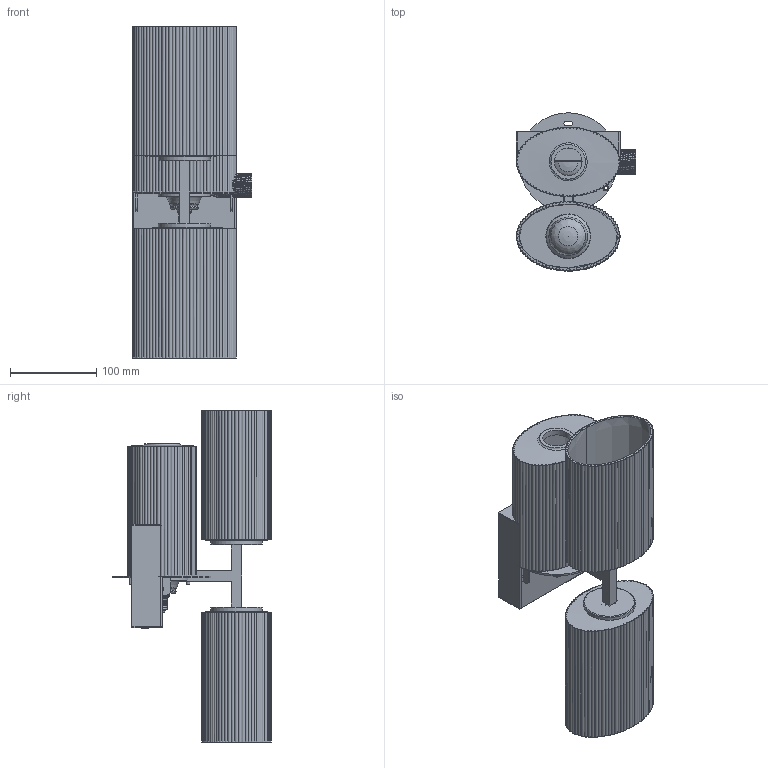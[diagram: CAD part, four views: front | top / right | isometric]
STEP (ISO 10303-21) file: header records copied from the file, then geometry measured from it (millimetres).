
FILE_DESCRIPTION( ( 'Unknown' ), '1' );
FILE_NAME( '//MMS001/Pubblica/PROGETTI MM LAMPADARI/7413 SERIE OVAL/STUDIO/APPLIQUE 2 LUCI/7413APPLIQUE DOPPIO.stp', 'Unknown', ( 'Unknown' ), ( 'Unknown' ), 'XStep 1.0', 'Unknown', ' ' );
FILE_SCHEMA( ( 'automotive_design' ) );
Length unit declared in the file: millimetre
Products named in the file (15): Assem1; Assem2; CPE14; CM600; 7413C010 ROSONE QUADRATO; 7413C011 BRACCIO APPL DOPPIO; 400125059 STAFFA A SOFFITTO; 400104025 TUBETTO FILETTATO D9,5 L=25; 400109001 RONDELLA DENTATA M10; 400108502 DADO M10x1; 400123060 CENTRATUBO FE D 60X5; 7413C003 VETRO; 7415C070 GHIERA; 4001M412S VITE TESTA SVASATA M4X12; LAMPADINA E14 OSRAM
Bounding box: 138.02 x 183 x 384 mm (x, y, z)
Volume: 851984.9 mm3; surface area: 675280.5 mm2
Topology: 37 solids, 37 shells, 2270 faces, 6010 edges, 3837 vertices
Faces by surface type: plane 977, cylinder 672, extrusion 222, torus 184, cone 121, bspline 55, sphere 39
Full cylindrical faces by diameter (mm): 1.567 x4, 2 x4, 3 x6, 3.242 x4, 4 x13, 4.5 x4, 5 x4, 8 x4, 8.917 x8, 10 x4, 10.25 x7, 13.044 x18, 14 x2, 16 x4, 16.211 x3, 18.985 x3, 20 x4, 22.5 x20, 28 x7, 32 x3, 58 x3, 60 x3
Entity records: 28708 total; most frequent: CARTESIAN_POINT 10155, ORIENTED_EDGE 3594, DIRECTION 3509, EDGE_CURVE 1797, AXIS2_PLACEMENT_3D 1281, VERTEX_POINT 1209, VECTOR 947, EDGE_LOOP 912
